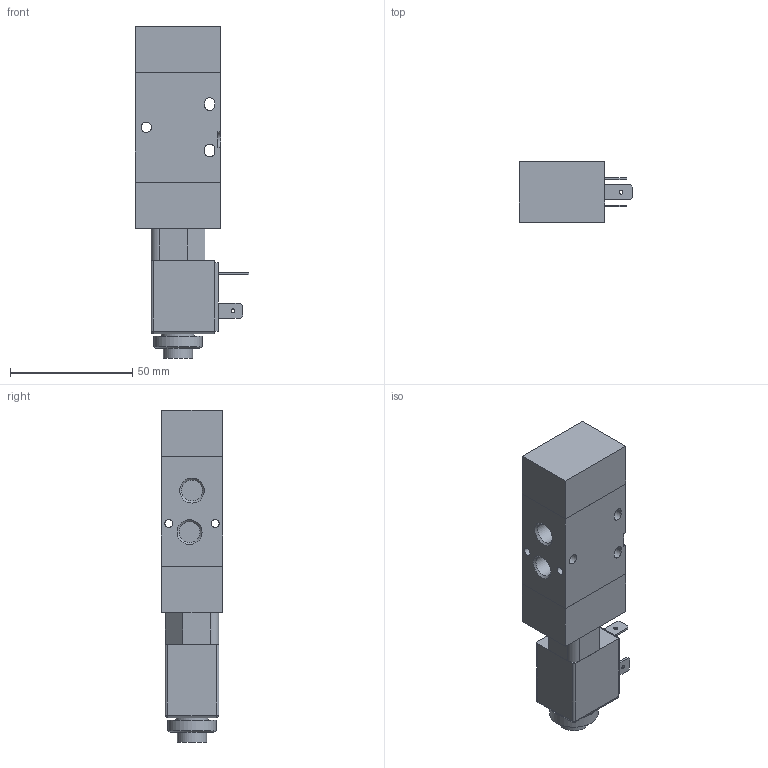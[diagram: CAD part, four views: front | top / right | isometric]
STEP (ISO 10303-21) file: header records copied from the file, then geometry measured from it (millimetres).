
FILE_DESCRIPTION((''),'2;1');
FILE_NAME('I:\Area Tecnica\Disegni\VARIE-3D\Componenti\TECNOECO\3D\3 VIE\T488_32_0_1_##.stp','2008-10-20T11:12:02',('rivolro1'),(''),'Autodesk Inventor 2009','Autodesk Inventor 2009','');
FILE_SCHEMA(('AUTOMOTIVE_DESIGN { 1 0 10303 214 1 1 1 1 }'));
Length unit declared in the file: millimetre
Products named in the file (3): T488_32_0_1_##; T488_32_0_1; MB
Assembly tree (2 placements, depth 2):
  T488_32_0_1_##
    T488_32_0_1
    MB
Bounding box: 46.5 x 25 x 136 mm (x, y, z)
Volume: 94724.3 mm3; surface area: 22592.3 mm2
Topology: 2 solids, 2 shells, 128 faces, 297 edges, 193 vertices
Faces by surface type: plane 75, cylinder 26, bspline 23, cone 2, sphere 2
Full cylindrical faces by diameter (mm): 4.2 x1, 7.4 x1, 7.8 x1, 8 x1, 8.2 x1, 9.8 x1, 10.1 x1, 10.2 x1, 10.7 x1, 12 x1, 13.5 x1, 16.2 x1, 20 x1
Entity records: 3850 total; most frequent: CARTESIAN_POINT 897, DIRECTION 557, ORIENTED_EDGE 512, EDGE_CURVE 256, EDGE_LOOP 201, AXIS2_PLACEMENT_3D 191, VERTEX_POINT 187, VECTOR 175
